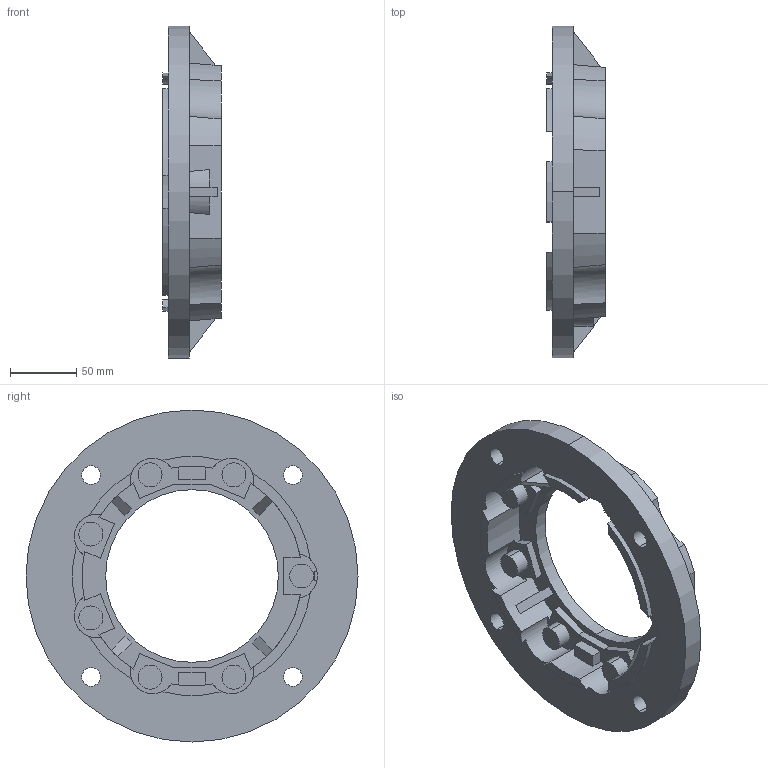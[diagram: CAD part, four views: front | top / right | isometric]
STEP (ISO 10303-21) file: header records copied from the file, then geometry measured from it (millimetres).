
FILE_DESCRIPTION(/* description */ (''),/* implementation_level */ '2;1');
FILE_NAME(/* name */ '3_FLANGIA (CAMPANA) LATERALE FC H082',/* time_stamp */ '2025-10-31T14:33:16+01:00',/* author */ (''),/* organization */ (''),/* preprocessor_version */ 'ST-DEVELOPER v19.2',/* originating_system */ 'Rhino 8.23',/* authorisation */ '');
FILE_SCHEMA (('CONFIG_CONTROL_DESIGN'));
Length unit declared in the file: millimetre
Products named in the file (2): Document; FU082FC-21
Bounding box: 44 x 250 x 250 mm (x, y, z)
Volume: 733335.3 mm3; surface area: 133107.3 mm2
Topology: 1 solids, 1 shells, 145 faces, 402 edges, 268 vertices
Faces by surface type: plane 84, cylinder 49, bspline 12
Entity records: 6338 total; most frequent: CARTESIAN_POINT 1627, ORIENTED_EDGE 804, DIRECTION 453, EDGE_CURVE 402, AXIS2_PLACEMENT_3D 293, VERTEX_POINT 268, B_SPLINE_CURVE_WITH_KNOTS 240, EDGE_LOOP 164
